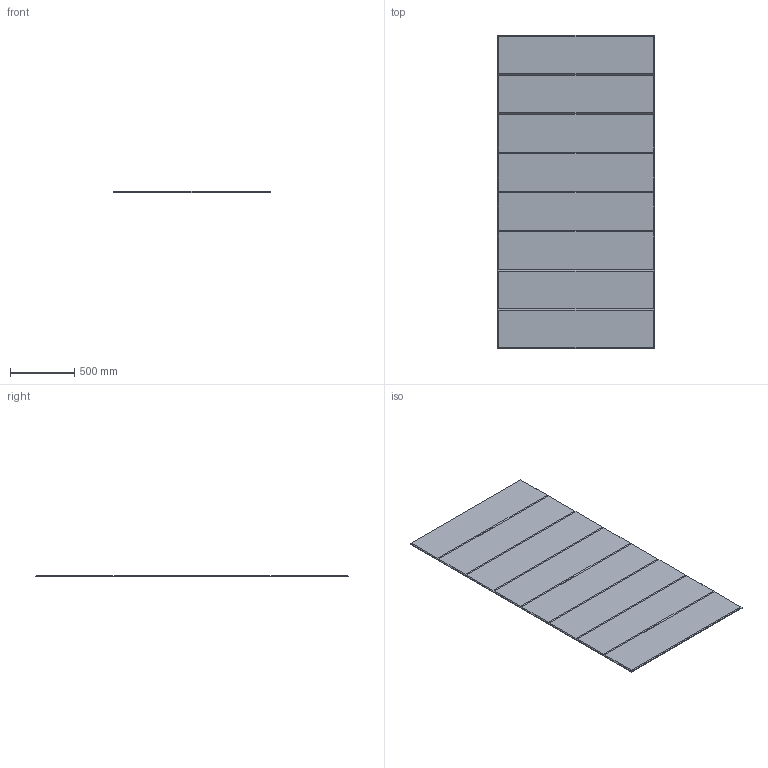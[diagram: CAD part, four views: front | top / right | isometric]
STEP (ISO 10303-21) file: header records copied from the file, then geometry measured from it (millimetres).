
FILE_DESCRIPTION(/* description */ (''),/* implementation_level */ '2;1');
FILE_NAME(/* name */ 'Y:\Design and Engineering\MaterialLogiq\CAD ASSETS\MASTER\PET ENGRAVED\WEB ASSETS\Latitude Sparse.stp',/* time_stamp */ '2024-08-26T10:02:29-05:00',/* author */ ('Grant Baker'),/* organization */ (''),/* preprocessor_version */ 'ST-DEVELOPER v19',/* originating_system */ 'Autodesk Inventor 2023',/* authorisation */ '');
FILE_SCHEMA (('AUTOMOTIVE_DESIGN { 1 0 10303 214 3 1 1 }'));
Length unit declared in the file: inch
Products named in the file (1): Latitude Sparse
Bounding box: 1219.2 x 2438.4 x 12.7 mm (x, y, z)
Volume: 37266914.7 mm3; surface area: 6055847.8 mm2
Topology: 1 solids, 1 shells, 45 faces, 97 edges, 54 vertices
Faces by surface type: plane 45
Entity records: 1200 total; most frequent: CARTESIAN_POINT 197, ORIENTED_EDGE 194, DIRECTION 189, LINE 97, VECTOR 97, EDGE_CURVE 97, VERTEX_POINT 54, AXIS2_PLACEMENT_3D 46
